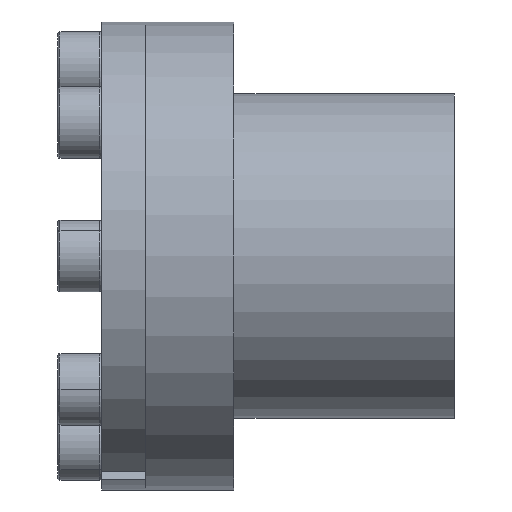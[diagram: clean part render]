
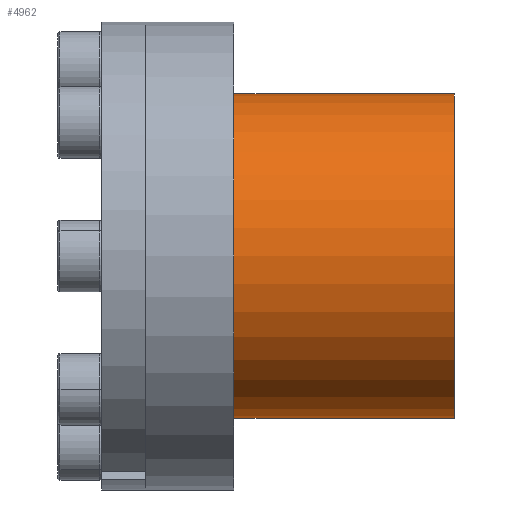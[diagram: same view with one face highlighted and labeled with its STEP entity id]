
A CAD part, front view. The second image highlights one B-rep face of the part: STEP entity #4962.
In plain terms, the highlighted cylindrical face has radius 29.5 mm (diameter 59 mm), a partial arc.
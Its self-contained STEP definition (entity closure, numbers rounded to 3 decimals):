
#404 = LINE ( 'NONE', #3202, #6106 ) ;
#582 = CIRCLE ( 'NONE', #1571, 29.5 ) ;
#1096 = CARTESIAN_POINT ( 'NONE',  ( 32., 0., 29.5 ) ) ;
#1105 = DIRECTION ( 'NONE',  ( -1., 0., 0. ) ) ;
#1231 = DIRECTION ( 'NONE',  ( -1., 0., 0. ) ) ;
#1446 = ORIENTED_EDGE ( 'NONE', *, *, #5863, .F. ) ;
#1554 = VERTEX_POINT ( 'NONE', #6721 ) ;
#1571 = AXIS2_PLACEMENT_3D ( 'NONE', #4544, #1231, #5103 ) ;
#1639 = AXIS2_PLACEMENT_3D ( 'NONE', #5682, #2359, #2881 ) ;
#1742 = EDGE_CURVE ( 'NONE', #1554, #3574, #5514, .T. ) ;
#1933 = CYLINDRICAL_SURFACE ( 'NONE', #1639, 29.5 ) ;
#2093 = EDGE_CURVE ( 'NONE', #1554, #4217, #3528, .T. ) ;
#2359 = DIRECTION ( 'NONE',  ( -1., 0., 0. ) ) ;
#2461 = AXIS2_PLACEMENT_3D ( 'NONE', #2882, #6783, #3462 ) ;
#2881 = DIRECTION ( 'NONE',  ( 0., 0., 1. ) ) ;
#2882 = CARTESIAN_POINT ( 'NONE',  ( 32., 0., 0. ) ) ;
#2917 = CARTESIAN_POINT ( 'NONE',  ( -8., 0., 29.5 ) ) ;
#3071 = ORIENTED_EDGE ( 'NONE', *, *, #1742, .T. ) ;
#3202 = CARTESIAN_POINT ( 'NONE',  ( -32., 0., 29.5 ) ) ;
#3254 = VERTEX_POINT ( 'NONE', #2917 ) ;
#3462 = DIRECTION ( 'NONE',  ( 0., 0., 1. ) ) ;
#3528 = LINE ( 'NONE', #4599, #4148 ) ;
#3574 = VERTEX_POINT ( 'NONE', #1096 ) ;
#3757 = FACE_OUTER_BOUND ( 'NONE', #3917, .T. ) ;
#3917 = EDGE_LOOP ( 'NONE', ( #4077, #3071, #4561, #1446 ) ) ;
#4000 = CARTESIAN_POINT ( 'NONE',  ( -8., 0., -29.5 ) ) ;
#4077 = ORIENTED_EDGE ( 'NONE', *, *, #2093, .F. ) ;
#4148 = VECTOR ( 'NONE', #5666, 1000. ) ;
#4217 = VERTEX_POINT ( 'NONE', #4000 ) ;
#4544 = CARTESIAN_POINT ( 'NONE',  ( -8., 0., 0. ) ) ;
#4561 = ORIENTED_EDGE ( 'NONE', *, *, #6829, .T. ) ;
#4599 = CARTESIAN_POINT ( 'NONE',  ( -32., 0., -29.5 ) ) ;
#4962 = ADVANCED_FACE ( 'NONE', ( #3757 ), #1933, .T. ) ;
#5103 = DIRECTION ( 'NONE',  ( 0., 0., 1. ) ) ;
#5514 = CIRCLE ( 'NONE', #2461, 29.5 ) ;
#5666 = DIRECTION ( 'NONE',  ( -1., 0., 0. ) ) ;
#5682 = CARTESIAN_POINT ( 'NONE',  ( -32., 0., 0. ) ) ;
#5863 = EDGE_CURVE ( 'NONE', #4217, #3254, #582, .T. ) ;
#6106 = VECTOR ( 'NONE', #1105, 1000. ) ;
#6721 = CARTESIAN_POINT ( 'NONE',  ( 32., 0., -29.5 ) ) ;
#6783 = DIRECTION ( 'NONE',  ( -1., 0., 0. ) ) ;
#6829 = EDGE_CURVE ( 'NONE', #3574, #3254, #404, .T. ) ;
